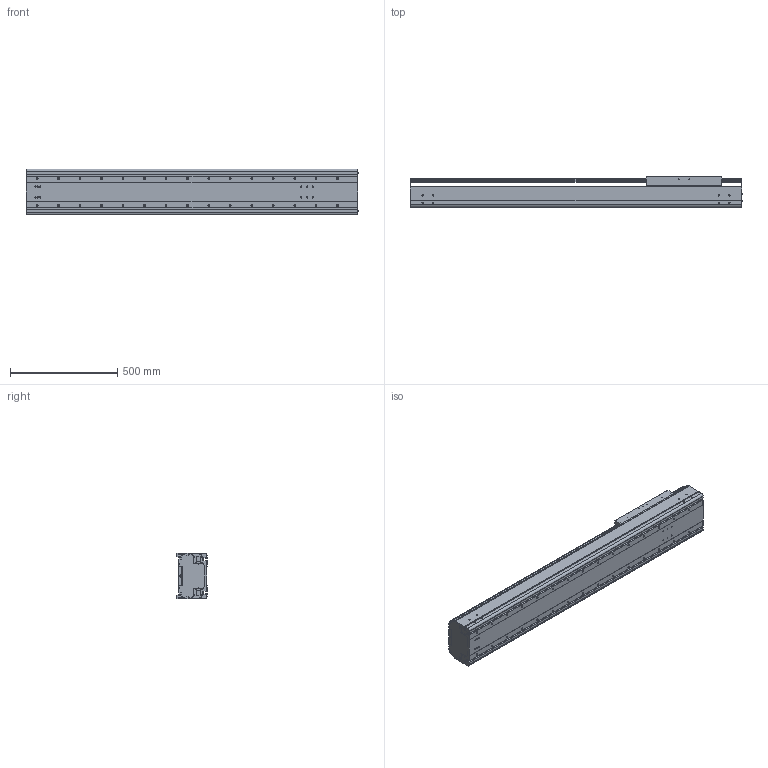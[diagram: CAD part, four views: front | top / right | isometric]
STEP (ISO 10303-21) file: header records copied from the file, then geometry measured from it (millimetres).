
FILE_DESCRIPTION((''),'2;1');
FILE_NAME('BE60G-ST-L_B-A5_IGS_PRT','2017-06-18T',(' '),(''),'PRO/ENGINEER BY PARAMETRIC TECHNOLOGY CORPORATION, 2015030','PRO/ENGINEER BY PARAMETRIC TECHNOLOGY CORPORATION, 2015030','');
FILE_SCHEMA(('CONFIG_CONTROL_DESIGN'));
Length unit declared in the file: millimetre
Products named in the file (1): BE60G-ST-L_B-A5_IGS_PRT
Bounding box: 1547.4 x 140 x 214 mm (x, y, z)
Volume: 12731229 mm3; surface area: 3343635.7 mm2
Topology: 2 solids, 152 shells, 1630 faces, 4552 edges, 2987 vertices
Faces by surface type: cylinder 840, plane 622, cone 120, sphere 24, torus 24
Entity records: 54402 total; most frequent: CARTESIAN_POINT 12372, DIRECTION 8834, ORIENTED_EDGE 8276, EDGE_CURVE 4434, AXIS2_PLACEMENT_3D 3301, VERTEX_POINT 2986, VECTOR 2232, LINE 2232
